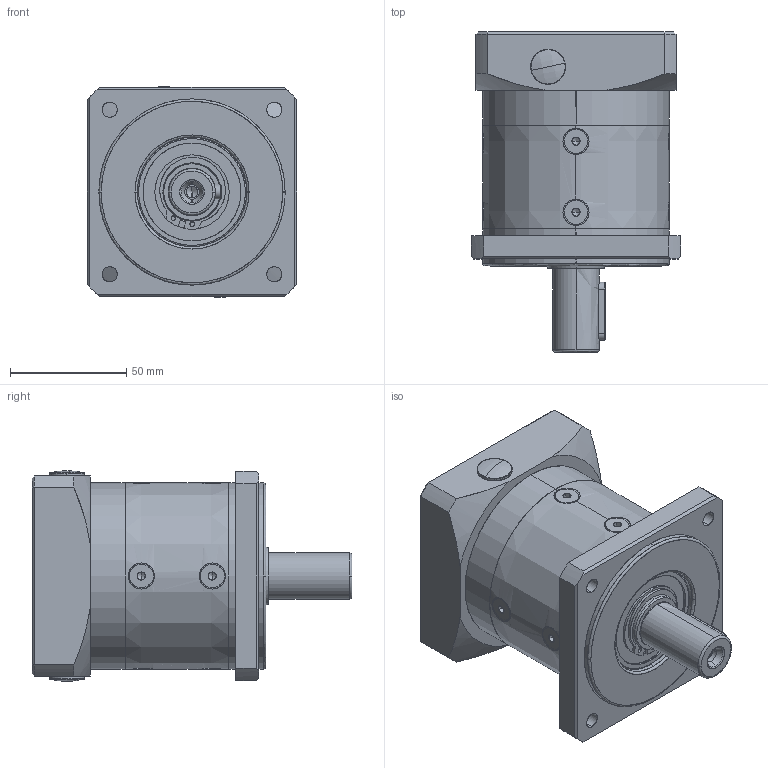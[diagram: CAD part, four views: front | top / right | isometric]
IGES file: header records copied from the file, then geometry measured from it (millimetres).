
Start section: SolidWorks IGES file using analytic representation for surfaces
Global section: file name: C:\TeknicPDM\Remarketed and Private Label Products\Gearboxes\Gearbox Customer Files\GSFL-080-0XX-N034H-XX Single Stage.IGS; native system: SolidWorks 2020; preprocessor: SolidWorks 2020; author: zeb_koch; date: 250623.133344; units: millimetre
Bounding box: 90 x 137.5 x 90.39 mm (x, y, z)
Surface area: 147979.8 mm2 (no closed solid volume)
Topology: 0 solids, 0 shells, 1114 faces, 24021 edges, 23881 vertices
Faces by surface type: bspline 560, revolution 554
